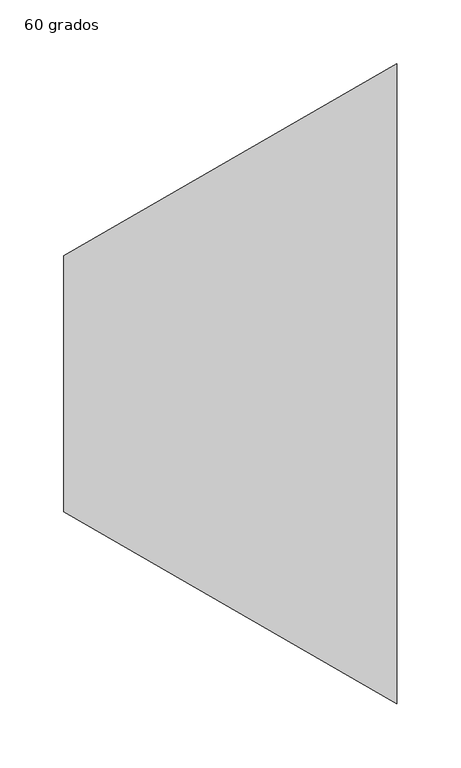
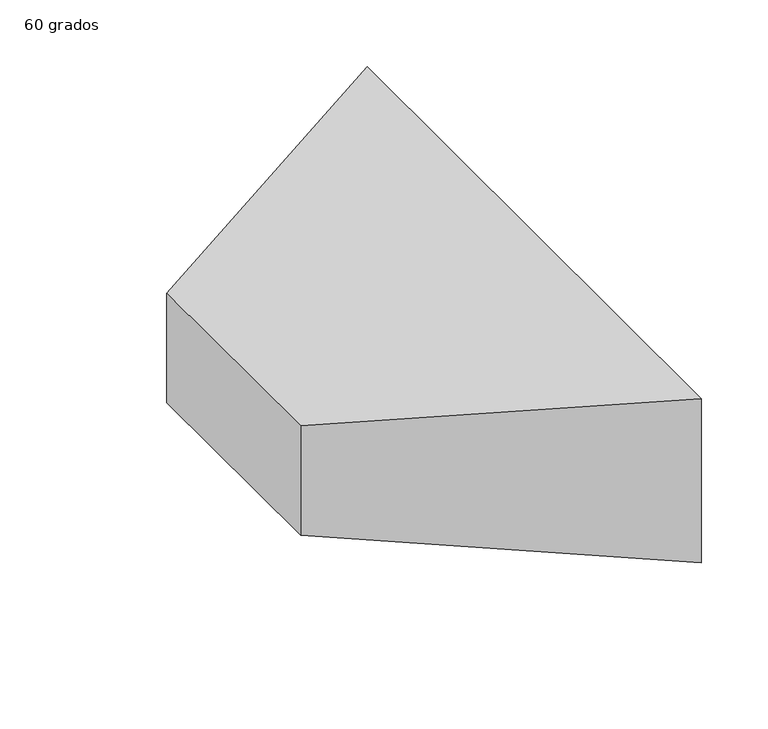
"""IFC4 building model written with IfcOpenShell, lengths in millimetres: duct fitting geometry, M_Transición rectangular - Ángulo : 60 grados."""

from ifc_helpers import new_model, si_unit, origin, place, context, project, spatial, faceted_brep, source, transform, mapped, element, save


def duct_fitting_60_grados_930c4e85(model_context):
    return source(origin(), model_context, "Body", "Brep", [
        faceted_brep([(259.8076211, -250.0, 75.0), (259.8076211, -250.0, -75.0), (259.8076211, 250.0, -75.0), (259.8076211, 250.0, 75.0), (0.0, -100.0, 50.0), (0.0, 100.0, 50.0), (0.0, 100.0, -50.0), (0.0, -100.0, -50.0)], [[[0, 1, 2, 3]], [[4, 5, 6, 7]], [[4, 7, 1, 0]], [[7, 6, 2, 1]], [[6, 5, 3, 2]], [[5, 4, 0, 3]]]),
    ])


if __name__ == "__main__":
    model = new_model("IFC4")
    model_context = context("Model", 3, world=origin())
    ifc_project = project(units=[si_unit("LENGTHUNIT", "METRE", prefix="MILLI")], contexts=[model_context])
    site = spatial("IfcSite", under=ifc_project)
    building = spatial("IfcBuilding", under=site)
    placement = place(None, origin())
    duct_fitting_60_grados_shape = duct_fitting_60_grados_930c4e85(model_context)
    element("IfcDuctFitting", 1, ObjectType="M_Transición rectangular - Ángulo : 60 grados", at=placement, inside=building, context=model_context, shape_type="MappedRepresentation", body=[
        mapped(duct_fitting_60_grados_shape, transform((0.0, 0.0, 0.0), x_axis=(1.0, 0.0, 0.0), y_axis=(0.0, 1.0, 0.0), z_axis=(0.0, 0.0, 1.0))),
    ])
    save(model, "model.ifc")
